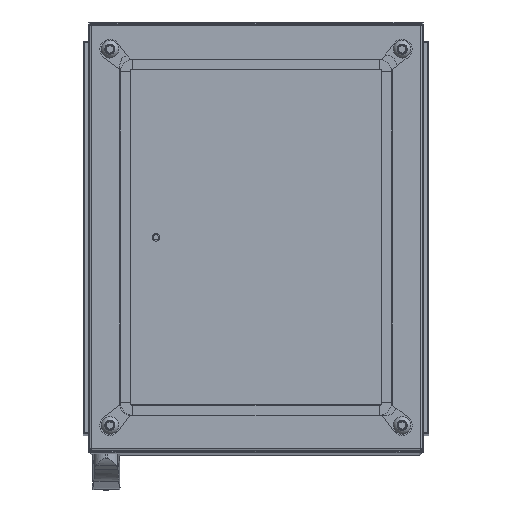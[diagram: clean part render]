
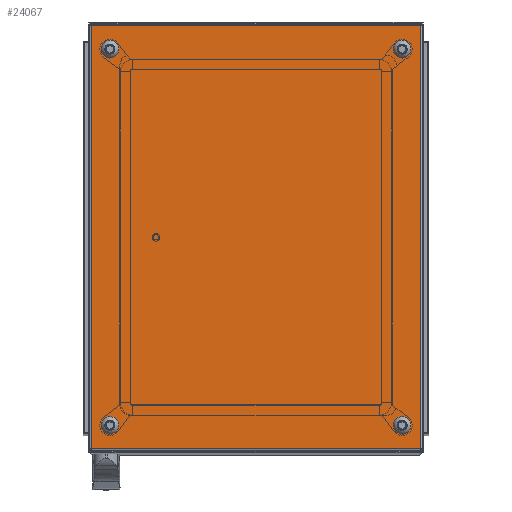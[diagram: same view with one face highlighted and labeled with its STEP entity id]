
A CAD part, top view. The second image highlights one B-rep face of the part: STEP entity #24067.
In plain terms, the highlighted planar face has unit normal (0, 0, 1).
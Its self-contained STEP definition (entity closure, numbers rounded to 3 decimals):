
#1239=CIRCLE('',#25917,6.);
#1240=CIRCLE('',#25918,6.);
#1241=CIRCLE('',#25919,6.);
#1242=CIRCLE('',#25920,6.);
#4811=ORIENTED_EDGE('',*,*,#10389,.F.);
#4812=ORIENTED_EDGE('',*,*,#10390,.F.);
#4813=ORIENTED_EDGE('',*,*,#10391,.F.);
#4814=ORIENTED_EDGE('',*,*,#10392,.F.);
#4815=ORIENTED_EDGE('',*,*,#10378,.T.);
#4816=ORIENTED_EDGE('',*,*,#10386,.T.);
#4817=ORIENTED_EDGE('',*,*,#10349,.F.);
#4818=ORIENTED_EDGE('',*,*,#10393,.F.);
#10349=EDGE_CURVE('',#13373,#13374,#15765,.T.);
#10378=EDGE_CURVE('',#13395,#13394,#15771,.T.);
#10386=EDGE_CURVE('',#13394,#13374,#15776,.T.);
#10389=EDGE_CURVE('',#13396,#13396,#1239,.T.);
#10390=EDGE_CURVE('',#13397,#13397,#1240,.T.);
#10391=EDGE_CURVE('',#13398,#13398,#1241,.T.);
#10392=EDGE_CURVE('',#13399,#13399,#1242,.T.);
#10393=EDGE_CURVE('',#13395,#13373,#15779,.T.);
#13373=VERTEX_POINT('',#37831);
#13374=VERTEX_POINT('',#37833);
#13394=VERTEX_POINT('',#37907);
#13395=VERTEX_POINT('',#37909);
#13396=VERTEX_POINT('',#37926);
#13397=VERTEX_POINT('',#37928);
#13398=VERTEX_POINT('',#37930);
#13399=VERTEX_POINT('',#37932);
#15765=LINE('',#37832,#17886);
#15771=LINE('',#37908,#17892);
#15776=LINE('',#37920,#17897);
#15779=LINE('',#37933,#17900);
#17886=VECTOR('',#30365,1000.);
#17892=VECTOR('',#30419,1000.);
#17897=VECTOR('',#30436,1000.);
#17900=VECTOR('',#30451,1000.);
#19705=EDGE_LOOP('',(#4811));
#19706=EDGE_LOOP('',(#4812));
#19707=EDGE_LOOP('',(#4813));
#19708=EDGE_LOOP('',(#4814));
#19709=EDGE_LOOP('',(#4815,#4816,#4817,#4818));
#21628=FACE_BOUND('',#19705,.T.);
#21629=FACE_BOUND('',#19706,.T.);
#21630=FACE_BOUND('',#19707,.T.);
#21631=FACE_BOUND('',#19708,.T.);
#21632=FACE_BOUND('',#19709,.T.);
#23208=PLANE('',#25916);
#24067=ADVANCED_FACE('',(#21628,#21629,#21630,#21631,#21632),#23208,.T.);
#25916=AXIS2_PLACEMENT_3D('',#37924,#30441,#30442);
#25917=AXIS2_PLACEMENT_3D('',#37925,#30443,#30444);
#25918=AXIS2_PLACEMENT_3D('',#37927,#30445,#30446);
#25919=AXIS2_PLACEMENT_3D('',#37929,#30447,#30448);
#25920=AXIS2_PLACEMENT_3D('',#37931,#30449,#30450);
#30365=DIRECTION('',(-1.,0.,0.));
#30419=DIRECTION('',(-1.,0.,0.));
#30436=DIRECTION('',(0.,-1.,0.));
#30441=DIRECTION('',(0.,0.,1.));
#30442=DIRECTION('',(1.,0.,0.));
#30443=DIRECTION('',(0.,0.,1.));
#30444=DIRECTION('',(1.,0.,0.));
#30445=DIRECTION('',(0.,0.,1.));
#30446=DIRECTION('',(1.,0.,0.));
#30447=DIRECTION('',(0.,0.,1.));
#30448=DIRECTION('',(1.,0.,0.));
#30449=DIRECTION('',(0.,0.,1.));
#30450=DIRECTION('',(1.,0.,0.));
#30451=DIRECTION('',(0.,-1.,0.));
#37831=CARTESIAN_POINT('',(196.5,-252.5,20.));
#37832=CARTESIAN_POINT('',(200.,-252.5,20.));
#37833=CARTESIAN_POINT('',(-196.5,-252.5,20.));
#37907=CARTESIAN_POINT('',(-196.5,252.5,20.));
#37908=CARTESIAN_POINT('',(200.,252.5,20.));
#37909=CARTESIAN_POINT('',(196.5,252.5,20.));
#37920=CARTESIAN_POINT('',(-196.5,255.5,20.));
#37924=CARTESIAN_POINT('',(-196.5,-252.5,20.));
#37925=CARTESIAN_POINT('',(174.5,-224.5,20.));
#37926=CARTESIAN_POINT('',(180.5,-224.5,20.));
#37927=CARTESIAN_POINT('',(-174.5,224.5,20.));
#37928=CARTESIAN_POINT('',(-168.5,224.5,20.));
#37929=CARTESIAN_POINT('',(174.5,224.5,20.));
#37930=CARTESIAN_POINT('',(180.5,224.5,20.));
#37931=CARTESIAN_POINT('',(-174.5,-224.5,20.));
#37932=CARTESIAN_POINT('',(-168.5,-224.5,20.));
#37933=CARTESIAN_POINT('',(196.5,255.5,20.));
